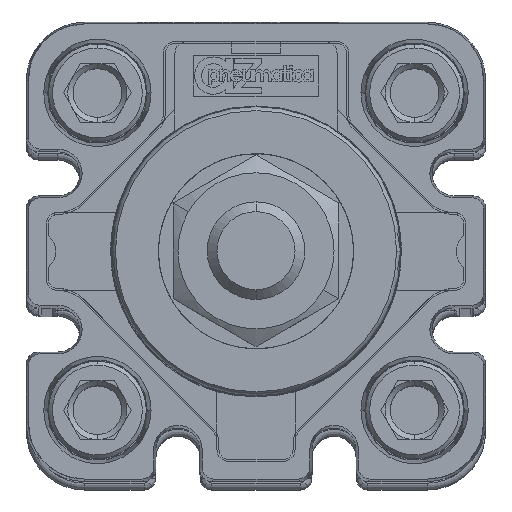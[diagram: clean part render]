
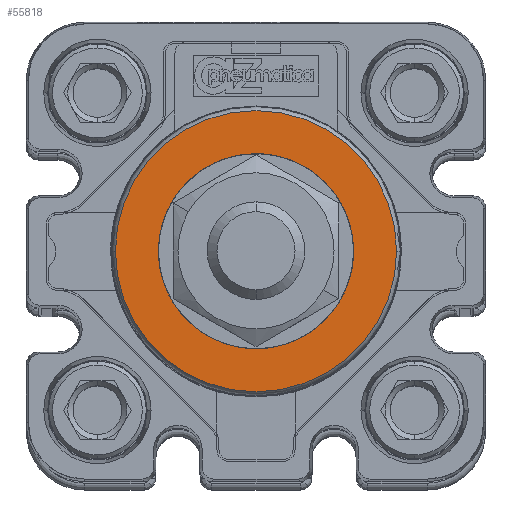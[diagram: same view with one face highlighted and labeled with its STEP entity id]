
A CAD part, top view. The second image highlights one B-rep face of the part: STEP entity #55818.
In plain terms, the highlighted planar face has unit normal (0, 0, 1) as drawn and (0, 0, -1) by its records, which use the part's own axes.
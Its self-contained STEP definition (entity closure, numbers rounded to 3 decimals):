
#2551 = DIRECTION ( 'NONE',  ( -1., 0., 0. ) ) ;
#10253 = AXIS2_PLACEMENT_3D ( 'NONE', #55444, #23442, #12265 ) ;
#12265 = DIRECTION ( 'NONE',  ( -1., 0., 0. ) ) ;
#12942 = CARTESIAN_POINT ( 'NONE',  ( 0., 0., -42.7 ) ) ;
#16147 = CARTESIAN_POINT ( 'NONE',  ( -10., 0., -42.7 ) ) ;
#16864 = CARTESIAN_POINT ( 'NONE',  ( 14.408, 0., -42.7 ) ) ;
#17164 = AXIS2_PLACEMENT_3D ( 'NONE', #25854, #64448, #2551 ) ;
#18189 = CARTESIAN_POINT ( 'NONE',  ( 10., 0., -42.7 ) ) ;
#19324 = DIRECTION ( 'NONE',  ( 0., 0., -1. ) ) ;
#19591 = AXIS2_PLACEMENT_3D ( 'NONE', #12942, #19324, #51363 ) ;
#19687 = FACE_OUTER_BOUND ( 'NONE', #58490, .T. ) ;
#21132 = DIRECTION ( 'NONE',  ( 0., 0., -1. ) ) ;
#22045 = CIRCLE ( 'NONE', #19591, 10. ) ;
#22990 = VERTEX_POINT ( 'NONE', #16864 ) ;
#23442 = DIRECTION ( 'NONE',  ( 0., 0., -1. ) ) ;
#24425 = CARTESIAN_POINT ( 'NONE',  ( -14.408, 0., -42.7 ) ) ;
#25854 = CARTESIAN_POINT ( 'NONE',  ( 0., 0., -42.7 ) ) ;
#29788 = EDGE_CURVE ( 'NONE', #67008, #22990, #39540, .T. ) ;
#31922 = PLANE ( 'NONE',  #50246 ) ;
#33320 = ORIENTED_EDGE ( 'NONE', *, *, #29788, .F. ) ;
#34466 = ORIENTED_EDGE ( 'NONE', *, *, #53635, .F. ) ;
#36647 = EDGE_CURVE ( 'NONE', #69095, #39473, #22045, .T. ) ;
#39473 = VERTEX_POINT ( 'NONE', #16147 ) ;
#39540 = CIRCLE ( 'NONE', #17164, 14.408 ) ;
#41038 = AXIS2_PLACEMENT_3D ( 'NONE', #58754, #64838, #64349 ) ;
#47551 = EDGE_LOOP ( 'NONE', ( #34466, #47752 ) ) ;
#47752 = ORIENTED_EDGE ( 'NONE', *, *, #36647, .F. ) ;
#50246 = AXIS2_PLACEMENT_3D ( 'NONE', #65462, #21132, #60131 ) ;
#51363 = DIRECTION ( 'NONE',  ( -1., 0., 0. ) ) ;
#53635 = EDGE_CURVE ( 'NONE', #39473, #69095, #64862, .T. ) ;
#54140 = FACE_BOUND ( 'NONE', #47551, .T. ) ;
#55444 = CARTESIAN_POINT ( 'NONE',  ( 0., 0., -42.7 ) ) ;
#55818 = ADVANCED_FACE ( 'NONE', ( #54140, #19687 ), #31922, .T. ) ;
#58490 = EDGE_LOOP ( 'NONE', ( #33320, #64429 ) ) ;
#58754 = CARTESIAN_POINT ( 'NONE',  ( 0., 0., -42.7 ) ) ;
#60131 = DIRECTION ( 'NONE',  ( -1., 0., 0. ) ) ;
#63164 = EDGE_CURVE ( 'NONE', #22990, #67008, #67057, .T. ) ;
#64349 = DIRECTION ( 'NONE',  ( -1., 0., 0. ) ) ;
#64429 = ORIENTED_EDGE ( 'NONE', *, *, #63164, .F. ) ;
#64448 = DIRECTION ( 'NONE',  ( 0., 0., 1. ) ) ;
#64838 = DIRECTION ( 'NONE',  ( 0., 0., 1. ) ) ;
#64862 = CIRCLE ( 'NONE', #10253, 10. ) ;
#65462 = CARTESIAN_POINT ( 'NONE',  ( 0., 0., -42.7 ) ) ;
#67008 = VERTEX_POINT ( 'NONE', #24425 ) ;
#67057 = CIRCLE ( 'NONE', #41038, 14.408 ) ;
#69095 = VERTEX_POINT ( 'NONE', #18189 ) ;
